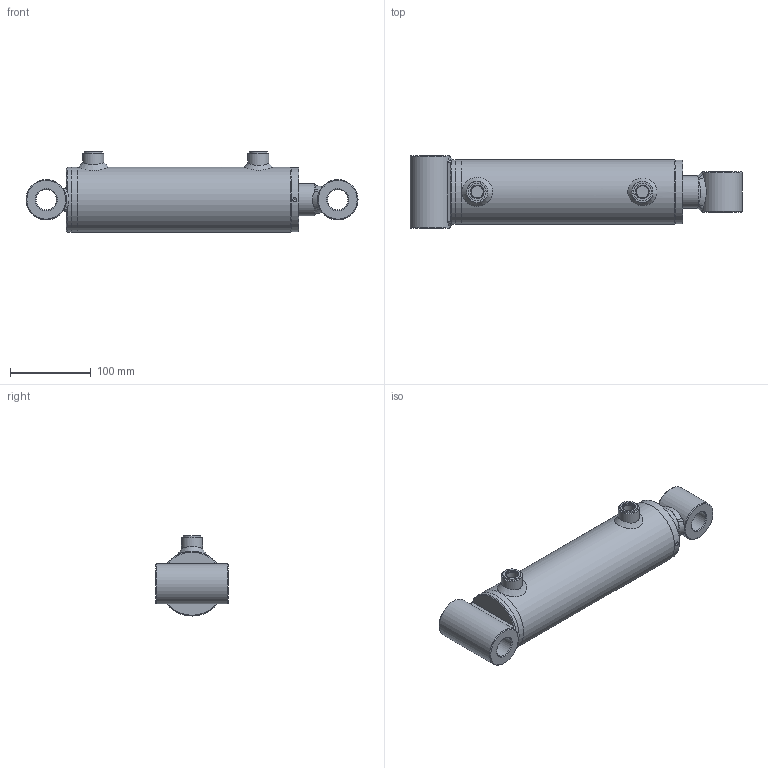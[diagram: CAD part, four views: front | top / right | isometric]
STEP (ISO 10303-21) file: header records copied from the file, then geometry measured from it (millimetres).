
FILE_DESCRIPTION( ( 'Unknown' ), '1' );
FILE_NAME( 'E:/LIBRERIA_3d/CILINDRI/HM2/HM24400150.stp', 'Unknown', ( 'Unknown' ), ( 'Unknown' ), 'PSStep 17.0.49', 'Unknown', ' ' );
FILE_SCHEMA( ( 'AUTOMOTIVE_DESIGN { 1 0 10303 214 1 1 1 1 }' ) );
Length unit declared in the file: millimetre
Products named in the file (26): CT00070027; STL4500150-oa6; Saldatura d'angolo 1-oa4; FTM4500150-oa5; CBSC220600; CG08007040; HM04400150; Saldatura con preparazione 1-oa2; Saldatura d'angolo 1-oa3; CF00070080; CBS0600000; CDB0002720; APG0600000; SBL4040150; Assem1; CB25050050; CB25050090; Saldatura d'angolo 1-oa0; Saldatura d'angolo 2-oa1
Assembly tree (18 placements, depth 4):
  Saldatura d'angolo 1-oa4
  Saldatura d'angolo 1-oa4
  Saldatura d'angolo 1-oa3
  Saldatura d'angolo 1-oa3
  Assem1
    CB25050050
    CB25050090
    HM04400150
      Saldatura con preparazione 1-oa2
      Saldatura con preparazione 1-oa2
      CF00070080
      CBS0600000
      CDB0002720
      APG0600000  x2
      SBL4040150
      CG08007040
        CG08007040
      CT00070027
        CT00070027
      STL4500150-oa6
        FTM4500150-oa5
        CBSC220600
Bounding box: 410 x 90 x 99 mm (x, y, z)
Volume: 1189908 mm3; surface area: 314510.5 mm2
Topology: 22 solids, 22 shells, 307 faces, 677 edges, 391 vertices
Faces by surface type: bspline 96, cylinder 69, plane 62, cone 43, torus 37
Full cylindrical faces by diameter (mm): 4.25 x1, 5 x2, 6 x2, 7 x2, 14.95 x2, 16 x2, 16.6 x2, 22 x2, 25.25 x2, 26 x2, 26.4 x1, 27 x5, 33.2 x1, 40 x4, 41 x1, 42 x1, 43 x1, 48.6 x1, 50 x4, 64.18 x2, 65 x1, 68.34 x2, 69.9 x1, 70 x1, 70.3 x1, 70.5 x1, 70.6 x1, 71 x1, 72 x3, 72.5 x1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
Entity records: 15516 total; most frequent: CARTESIAN_POINT 8052, ORIENTED_EDGE 872, DIRECTION 846, EDGE_LOOP 484, EDGE_CURVE 436, AXIS2_PLACEMENT_3D 411, FACE_OUTER_BOUND 399, VERTEX_POINT 337
